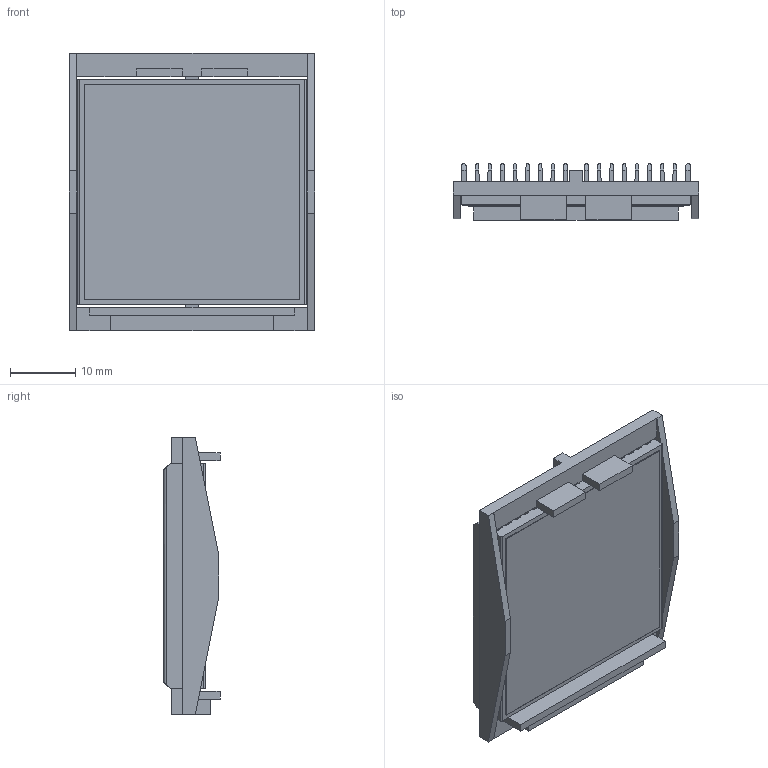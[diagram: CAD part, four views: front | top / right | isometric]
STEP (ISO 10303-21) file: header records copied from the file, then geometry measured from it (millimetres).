
FILE_DESCRIPTION (( 'STEP AP214' ), '1' );
FILE_NAME ('INL35001-6-1.7Y.STEP', '2023-02-23T23:54:02', ( '' ), ( '' ), 'SwSTEP 2.0', 'SolidWorks 2020', '' );
FILE_SCHEMA (( 'AUTOMOTIVE_DESIGN' ));
Length unit declared in the file: millimetre
Products named in the file (1): INL35001-6-1.7Y
Bounding box: 37.6 x 8.6 x 42.4 mm (x, y, z)
Volume: 5328.9 mm3; surface area: 12592.2 mm2
Topology: 3 solids, 3 shells, 200 faces, 584 edges, 388 vertices
Faces by surface type: plane 146, cylinder 54
Entity records: 8804 total; most frequent: CARTESIAN_POINT 1281, ORIENTED_EDGE 1168, DIRECTION 1022, EDGE_CURVE 584, LINE 476, VECTOR 476, VERTEX_POINT 388, AXIS2_PLACEMENT_3D 273
